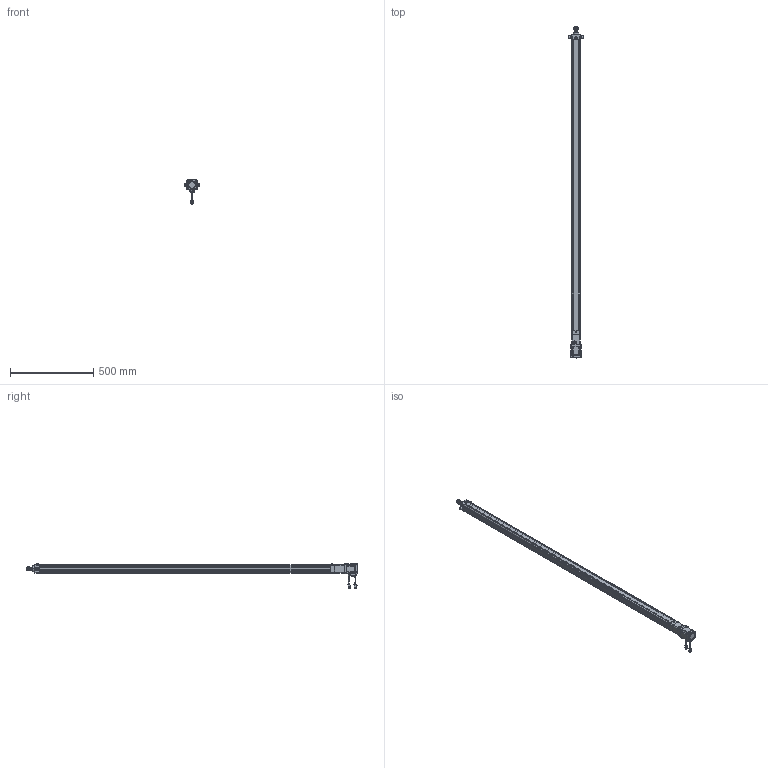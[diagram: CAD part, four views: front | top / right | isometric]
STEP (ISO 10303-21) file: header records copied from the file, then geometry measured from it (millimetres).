
FILE_DESCRIPTION((''),'2;1');
FILE_NAME('HE40-D-100_ASM','2020-05-25T',('ASUS20200'),(''),'CREO PARAMETRIC BY PTC INC, 2014190','CREO PARAMETRIC BY PTC INC, 2014190','');
FILE_SCHEMA(('CONFIG_CONTROL_DESIGN'));
Length unit declared in the file: millimetre
Products named in the file (26): HE40-D-P-001-X1; HE40-D-P-002-X1; HE40-D-P-003-X1; 6200ZZ; HE40-D-009-X1; HE40-D-010-X1; _MHMF022L1A2; _CABLE_MOTOR_BOTTOM_03; _CABLE_MOTOR_TOP_03; _MOTOR_CONNECTOR_2; _CABLE_BRAKE_BOTTOM_03; _CABLE_BRAKE_TOP_03; _MHMF_CONNECTOR_9_PIN_A6; MHMF022L1A2M2_1_ASM; MHMF022L1A2M2_ASM; SLM-01; YZ-M6X1; JDB202820; SKT-13; JX5X5X20; HE40-TC; HE40-D-P-005-X1; HE40-D-P-004-X1; HE40-D-P-008-X1; LGLM-M6-22; HE40-D-100_ASM
Assembly tree (29 placements, depth 4):
  HE40-D-100_ASM
    HE40-D-P-001-X1
    HE40-D-P-002-X1
    HE40-D-P-003-X1
    6200ZZ
    HE40-D-009-X1
    HE40-D-010-X1
    MHMF022L1A2M2_ASM
      MHMF022L1A2M2_1_ASM
        _MHMF022L1A2
        _CABLE_MOTOR_BOTTOM_03
        _CABLE_MOTOR_TOP_03
        _MOTOR_CONNECTOR_2
        _CABLE_BRAKE_BOTTOM_03
        _CABLE_BRAKE_TOP_03
        _MHMF_CONNECTOR_9_PIN_A6
    SLM-01
    YZ-M6X1
    JDB202820
    SKT-13
    JX5X5X20
    HE40-TC  x2
    HE40-D-P-005-X1
    HE40-D-P-004-X1
    HE40-D-P-008-X1
    LGLM-M6-22  x4
Bounding box: 91 x 1988.5 x 152.7 mm (x, y, z)
Volume: 2288642.8 mm3; surface area: 968247.9 mm2
Topology: 27 solids, 54 shells, 2087 faces, 5107 edges, 3191 vertices
Faces by surface type: plane 850, cylinder 653, cone 458, torus 86, sphere 36, bspline 4
Entity records: 59443 total; most frequent: CARTESIAN_POINT 11395, DIRECTION 10600, ORIENTED_EDGE 9414, EDGE_CURVE 4761, AXIS2_PLACEMENT_3D 3993, VERTEX_POINT 3009, VECTOR 2614, LINE 2614
